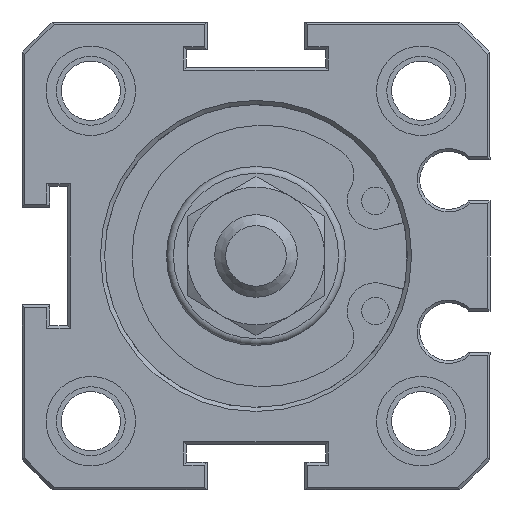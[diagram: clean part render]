
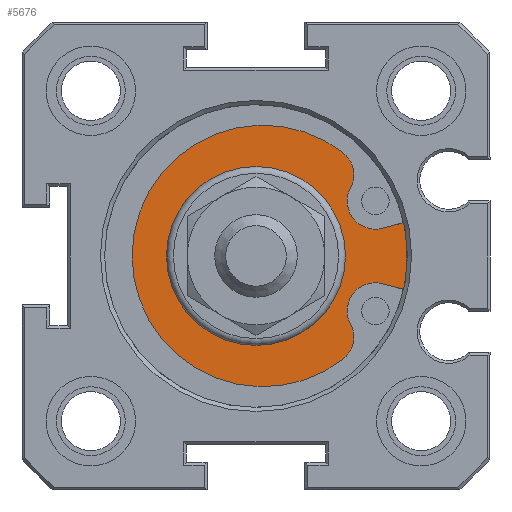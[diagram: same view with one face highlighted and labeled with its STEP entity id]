
A CAD part, front view. The second image highlights one B-rep face of the part: STEP entity #5676.
In plain terms, the highlighted planar face has unit normal (0, -1, 0).
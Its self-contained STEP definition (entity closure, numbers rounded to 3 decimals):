
#286=LINE('',#8233,#574);
#287=LINE('',#8245,#575);
#574=VECTOR('',#6936,1000.);
#575=VECTOR('',#6947,1000.);
#729=PLANE('',#6062);
#857=CIRCLE('',#5897,11.5);
#935=CIRCLE('',#6063,2.05);
#936=CIRCLE('',#6064,2.05);
#937=CIRCLE('',#6065,9.5);
#938=CIRCLE('',#6066,2.05);
#939=CIRCLE('',#6067,2.05);
#940=CIRCLE('',#6068,6.5);
#1487=ORIENTED_EDGE('',*,*,#2123,.F.);
#1488=ORIENTED_EDGE('',*,*,#2387,.F.);
#1489=ORIENTED_EDGE('',*,*,#2388,.F.);
#1490=ORIENTED_EDGE('',*,*,#2389,.F.);
#1491=ORIENTED_EDGE('',*,*,#2390,.F.);
#1492=ORIENTED_EDGE('',*,*,#2391,.F.);
#1493=ORIENTED_EDGE('',*,*,#2392,.F.);
#1494=ORIENTED_EDGE('',*,*,#2393,.F.);
#1495=ORIENTED_EDGE('',*,*,#2394,.F.);
#2123=EDGE_CURVE('',#2626,#2627,#857,.T.);
#2387=EDGE_CURVE('',#2845,#2626,#286,.T.);
#2388=EDGE_CURVE('',#2846,#2845,#935,.T.);
#2389=EDGE_CURVE('',#2847,#2846,#936,.T.);
#2390=EDGE_CURVE('',#2848,#2847,#937,.T.);
#2391=EDGE_CURVE('',#2849,#2848,#938,.T.);
#2392=EDGE_CURVE('',#2850,#2849,#939,.T.);
#2393=EDGE_CURVE('',#2627,#2850,#287,.T.);
#2394=EDGE_CURVE('',#2851,#2851,#940,.T.);
#2626=VERTEX_POINT('',#7658);
#2627=VERTEX_POINT('',#7660);
#2845=VERTEX_POINT('',#8234);
#2846=VERTEX_POINT('',#8236);
#2847=VERTEX_POINT('',#8238);
#2848=VERTEX_POINT('',#8240);
#2849=VERTEX_POINT('',#8242);
#2850=VERTEX_POINT('',#8244);
#2851=VERTEX_POINT('',#8247);
#3167=EDGE_LOOP('',(#1487,#1488,#1489,#1490,#1491,#1492,#1493,#1494));
#3168=EDGE_LOOP('',(#1495));
#3509=FACE_BOUND('',#3167,.T.);
#3510=FACE_BOUND('',#3168,.T.);
#5676=ADVANCED_FACE('',(#3509,#3510),#729,.T.);
#5897=AXIS2_PLACEMENT_3D('',#7659,#6422,#6423);
#6062=AXIS2_PLACEMENT_3D('',#8232,#6934,#6935);
#6063=AXIS2_PLACEMENT_3D('',#8235,#6937,#6938);
#6064=AXIS2_PLACEMENT_3D('',#8237,#6939,#6940);
#6065=AXIS2_PLACEMENT_3D('',#8239,#6941,#6942);
#6066=AXIS2_PLACEMENT_3D('',#8241,#6943,#6944);
#6067=AXIS2_PLACEMENT_3D('',#8243,#6945,#6946);
#6068=AXIS2_PLACEMENT_3D('',#8246,#6948,#6949);
#6422=DIRECTION('',(0.,1.,0.));
#6423=DIRECTION('',(-1.,0.,0.));
#6934=DIRECTION('',(0.,-1.,0.));
#6935=DIRECTION('',(1.,0.,0.));
#6936=DIRECTION('',(0.966,0.,0.259));
#6937=DIRECTION('',(0.,-1.,0.));
#6938=DIRECTION('',(1.,0.,0.));
#6939=DIRECTION('',(0.,1.,0.));
#6940=DIRECTION('',(-1.,0.,0.));
#6941=DIRECTION('',(0.,1.,0.));
#6942=DIRECTION('',(1.,0.,0.));
#6943=DIRECTION('',(0.,1.,0.));
#6944=DIRECTION('',(-1.,0.,0.));
#6945=DIRECTION('',(0.,-1.,0.));
#6946=DIRECTION('',(1.,0.,0.));
#6947=DIRECTION('',(-0.966,0.,0.259));
#6948=DIRECTION('',(0.,-1.,0.));
#6949=DIRECTION('',(1.,0.,0.));
#7658=CARTESIAN_POINT('',(11.212,2.8,2.557));
#7659=CARTESIAN_POINT('',(0.,2.8,0.));
#7660=CARTESIAN_POINT('',(11.212,2.8,-2.557));
#8232=CARTESIAN_POINT('',(0.,2.8,-11.5));
#8233=CARTESIAN_POINT('',(9.202,2.8,2.019));
#8234=CARTESIAN_POINT('',(9.202,2.8,2.019));
#8235=CARTESIAN_POINT('',(8.672,2.8,3.999));
#8236=CARTESIAN_POINT('',(6.963,2.8,5.131));
#8237=CARTESIAN_POINT('',(5.059,2.8,5.891));
#8238=CARTESIAN_POINT('',(6.29,2.8,7.531));
#8239=CARTESIAN_POINT('',(0.499,2.8,0.));
#8240=CARTESIAN_POINT('',(6.29,2.8,-7.531));
#8241=CARTESIAN_POINT('',(5.059,2.8,-5.891));
#8242=CARTESIAN_POINT('',(6.963,2.8,-5.131));
#8243=CARTESIAN_POINT('',(8.672,2.8,-3.999));
#8244=CARTESIAN_POINT('',(9.202,2.8,-2.019));
#8245=CARTESIAN_POINT('',(11.212,2.8,-2.557));
#8246=CARTESIAN_POINT('',(0.,2.8,0.));
#8247=CARTESIAN_POINT('',(6.5,2.8,0.));
